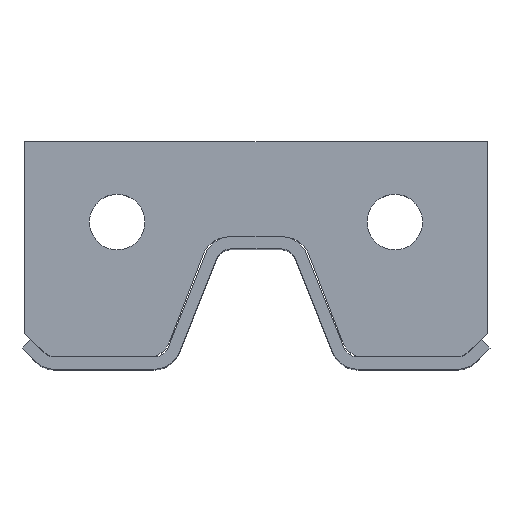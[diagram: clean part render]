
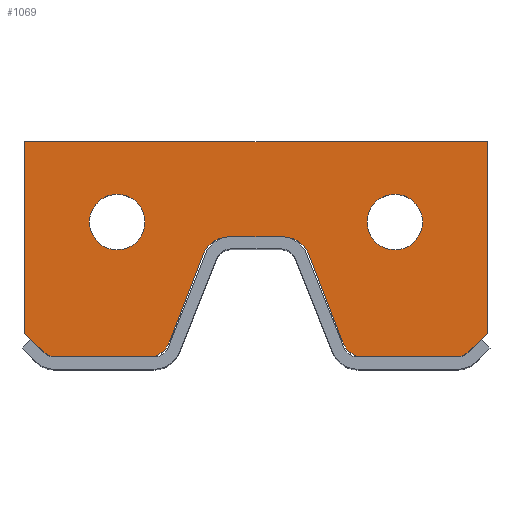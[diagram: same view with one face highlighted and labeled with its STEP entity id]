
A CAD part, top view. The second image highlights one B-rep face of the part: STEP entity #1069.
In plain terms, the highlighted planar face has unit normal (0, 0, 1).
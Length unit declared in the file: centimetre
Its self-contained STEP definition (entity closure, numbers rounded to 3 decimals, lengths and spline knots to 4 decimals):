
#38=FACE_BOUND('',#188,.T.);
#39=FACE_BOUND('',#189,.T.);
#69=PLANE('',#1176);
#123=FACE_OUTER_BOUND('',#187,.T.);
#187=EDGE_LOOP('',(#974,#975,#976,#977,#978,#979,#980,#981,#982,#983,#984,
#985,#986,#987,#988,#989));
#188=EDGE_LOOP('',(#990));
#189=EDGE_LOOP('',(#991));
#223=CIRCLE('',#1143,9.);
#225=CIRCLE('',#1146,9.);
#226=CIRCLE('',#1149,8.);
#228=CIRCLE('',#1153,8.);
#230=CIRCLE('',#1161,8.);
#232=CIRCLE('',#1165,8.);
#234=CIRCLE('',#1169,8.);
#236=CIRCLE('',#1173,8.);
#304=LINE('',#1707,#406);
#309=LINE('',#1721,#411);
#313=LINE('',#1733,#415);
#316=LINE('',#1739,#418);
#319=LINE('',#1745,#421);
#322=LINE('',#1751,#424);
#325=LINE('',#1757,#427);
#329=LINE('',#1769,#431);
#333=LINE('',#1781,#435);
#337=LINE('',#1793,#439);
#406=VECTOR('',#1397,1.);
#411=VECTOR('',#1410,1.);
#415=VECTOR('',#1422,1.);
#418=VECTOR('',#1427,1.);
#421=VECTOR('',#1432,1.);
#424=VECTOR('',#1437,1.);
#427=VECTOR('',#1442,1.);
#431=VECTOR('',#1454,1.);
#435=VECTOR('',#1466,1.);
#439=VECTOR('',#1478,1.);
#507=VERTEX_POINT('',#1695);
#509=VERTEX_POINT('',#1701);
#510=VERTEX_POINT('',#1705);
#511=VERTEX_POINT('',#1706);
#514=VERTEX_POINT('',#1714);
#516=VERTEX_POINT('',#1720);
#518=VERTEX_POINT('',#1726);
#520=VERTEX_POINT('',#1732);
#522=VERTEX_POINT('',#1738);
#524=VERTEX_POINT('',#1744);
#526=VERTEX_POINT('',#1750);
#528=VERTEX_POINT('',#1756);
#530=VERTEX_POINT('',#1762);
#532=VERTEX_POINT('',#1768);
#534=VERTEX_POINT('',#1774);
#536=VERTEX_POINT('',#1780);
#538=VERTEX_POINT('',#1786);
#540=VERTEX_POINT('',#1792);
#640=EDGE_CURVE('',#507,#507,#223,.T.);
#643=EDGE_CURVE('',#509,#509,#225,.T.);
#644=EDGE_CURVE('',#510,#511,#304,.T.);
#648=EDGE_CURVE('',#511,#514,#226,.T.);
#651=EDGE_CURVE('',#514,#516,#309,.T.);
#654=EDGE_CURVE('',#516,#518,#228,.T.);
#657=EDGE_CURVE('',#518,#520,#313,.T.);
#660=EDGE_CURVE('',#520,#522,#316,.T.);
#663=EDGE_CURVE('',#522,#524,#319,.T.);
#666=EDGE_CURVE('',#524,#526,#322,.T.);
#669=EDGE_CURVE('',#526,#528,#325,.T.);
#672=EDGE_CURVE('',#528,#530,#230,.T.);
#675=EDGE_CURVE('',#530,#532,#329,.T.);
#678=EDGE_CURVE('',#532,#534,#232,.T.);
#681=EDGE_CURVE('',#534,#536,#333,.T.);
#684=EDGE_CURVE('',#536,#538,#234,.T.);
#687=EDGE_CURVE('',#538,#540,#337,.T.);
#690=EDGE_CURVE('',#540,#510,#236,.T.);
#974=ORIENTED_EDGE('',*,*,#690,.T.);
#975=ORIENTED_EDGE('',*,*,#644,.T.);
#976=ORIENTED_EDGE('',*,*,#648,.T.);
#977=ORIENTED_EDGE('',*,*,#651,.T.);
#978=ORIENTED_EDGE('',*,*,#654,.T.);
#979=ORIENTED_EDGE('',*,*,#657,.T.);
#980=ORIENTED_EDGE('',*,*,#660,.T.);
#981=ORIENTED_EDGE('',*,*,#663,.T.);
#982=ORIENTED_EDGE('',*,*,#666,.T.);
#983=ORIENTED_EDGE('',*,*,#669,.T.);
#984=ORIENTED_EDGE('',*,*,#672,.T.);
#985=ORIENTED_EDGE('',*,*,#675,.T.);
#986=ORIENTED_EDGE('',*,*,#678,.T.);
#987=ORIENTED_EDGE('',*,*,#681,.T.);
#988=ORIENTED_EDGE('',*,*,#684,.T.);
#989=ORIENTED_EDGE('',*,*,#687,.T.);
#990=ORIENTED_EDGE('',*,*,#643,.F.);
#991=ORIENTED_EDGE('',*,*,#640,.F.);
#1069=ADVANCED_FACE('',(#123,#38,#39),#69,.F.);
#1143=AXIS2_PLACEMENT_3D('',#1697,#1386,#1387);
#1146=AXIS2_PLACEMENT_3D('',#1703,#1393,#1394);
#1149=AXIS2_PLACEMENT_3D('',#1715,#1403,#1404);
#1153=AXIS2_PLACEMENT_3D('',#1727,#1415,#1416);
#1161=AXIS2_PLACEMENT_3D('',#1763,#1447,#1448);
#1165=AXIS2_PLACEMENT_3D('',#1775,#1459,#1460);
#1169=AXIS2_PLACEMENT_3D('',#1787,#1471,#1472);
#1173=AXIS2_PLACEMENT_3D('',#1798,#1483,#1484);
#1176=AXIS2_PLACEMENT_3D('',#1801,#1489,#1490);
#1386=DIRECTION('center_axis',(0.,0.,1.));
#1387=DIRECTION('ref_axis',(1.,0.,0.));
#1393=DIRECTION('center_axis',(0.,0.,1.));
#1394=DIRECTION('ref_axis',(1.,0.,0.));
#1397=DIRECTION('',(0.359,-0.933,0.));
#1403=DIRECTION('center_axis',(0.,0.,1.));
#1404=DIRECTION('ref_axis',(-0.566,-0.824,0.));
#1410=DIRECTION('',(1.,0.,0.));
#1415=DIRECTION('center_axis',(0.,0.,1.));
#1416=DIRECTION('ref_axis',(0.383,-0.924,0.));
#1422=DIRECTION('',(0.707,0.707,0.));
#1427=DIRECTION('',(0.,1.,0.));
#1432=DIRECTION('',(-1.,0.,0.));
#1437=DIRECTION('',(0.,-1.,0.));
#1442=DIRECTION('',(0.707,-0.707,0.));
#1447=DIRECTION('center_axis',(0.,0.,1.));
#1448=DIRECTION('ref_axis',(-0.383,-0.924,0.));
#1454=DIRECTION('',(1.,0.,0.));
#1459=DIRECTION('center_axis',(0.,0.,1.));
#1460=DIRECTION('ref_axis',(0.566,-0.824,0.));
#1466=DIRECTION('',(0.359,0.933,0.));
#1471=DIRECTION('center_axis',(0.,0.,-1.));
#1472=DIRECTION('ref_axis',(-0.566,0.824,0.));
#1478=DIRECTION('',(1.,0.,0.));
#1483=DIRECTION('center_axis',(0.,0.,-1.));
#1484=DIRECTION('ref_axis',(0.566,0.824,0.));
#1489=DIRECTION('center_axis',(0.,0.,-1.));
#1490=DIRECTION('ref_axis',(-1.,0.,0.));
#1695=CARTESIAN_POINT('',(36.,48.,0.));
#1697=CARTESIAN_POINT('Origin',(45.,48.,0.));
#1701=CARTESIAN_POINT('',(-54.,48.,0.));
#1703=CARTESIAN_POINT('Origin',(-45.,48.,0.));
#1705=CARTESIAN_POINT('',(16.9724,37.8718,0.));
#1706=CARTESIAN_POINT('',(28.0276,9.1282,0.));
#1707=CARTESIAN_POINT('',(16.9724,37.8718,0.));
#1714=CARTESIAN_POINT('',(35.4944,4.,0.));
#1715=CARTESIAN_POINT('Origin',(35.4944,12.,0.));
#1720=CARTESIAN_POINT('',(63.6863,4.,0.));
#1721=CARTESIAN_POINT('',(35.4944,4.,0.));
#1726=CARTESIAN_POINT('',(69.3431,6.3431,0.));
#1727=CARTESIAN_POINT('Origin',(63.6863,12.,0.));
#1732=CARTESIAN_POINT('',(75.,12.,0.));
#1733=CARTESIAN_POINT('',(69.3431,6.3431,0.));
#1738=CARTESIAN_POINT('',(75.,74.,0.));
#1739=CARTESIAN_POINT('',(75.,12.,0.));
#1744=CARTESIAN_POINT('',(-75.,74.,0.));
#1745=CARTESIAN_POINT('',(75.,74.,0.));
#1750=CARTESIAN_POINT('',(-75.,12.,0.));
#1751=CARTESIAN_POINT('',(-75.,74.,0.));
#1756=CARTESIAN_POINT('',(-69.3431,6.3431,0.));
#1757=CARTESIAN_POINT('',(-75.,12.,0.));
#1762=CARTESIAN_POINT('',(-63.6863,4.,0.));
#1763=CARTESIAN_POINT('Origin',(-63.6863,12.,0.));
#1768=CARTESIAN_POINT('',(-35.4944,4.,0.));
#1769=CARTESIAN_POINT('',(-63.6863,4.,0.));
#1774=CARTESIAN_POINT('',(-28.0276,9.1282,0.));
#1775=CARTESIAN_POINT('Origin',(-35.4944,12.,0.));
#1780=CARTESIAN_POINT('',(-16.9724,37.8718,0.));
#1781=CARTESIAN_POINT('',(-28.0276,9.1282,0.));
#1786=CARTESIAN_POINT('',(-9.5056,43.,0.));
#1787=CARTESIAN_POINT('Origin',(-9.5056,35.,0.));
#1792=CARTESIAN_POINT('',(9.5056,43.,0.));
#1793=CARTESIAN_POINT('',(-9.5056,43.,0.));
#1798=CARTESIAN_POINT('Origin',(9.5056,35.,0.));
#1801=CARTESIAN_POINT('Origin',(35.,48.,0.));
